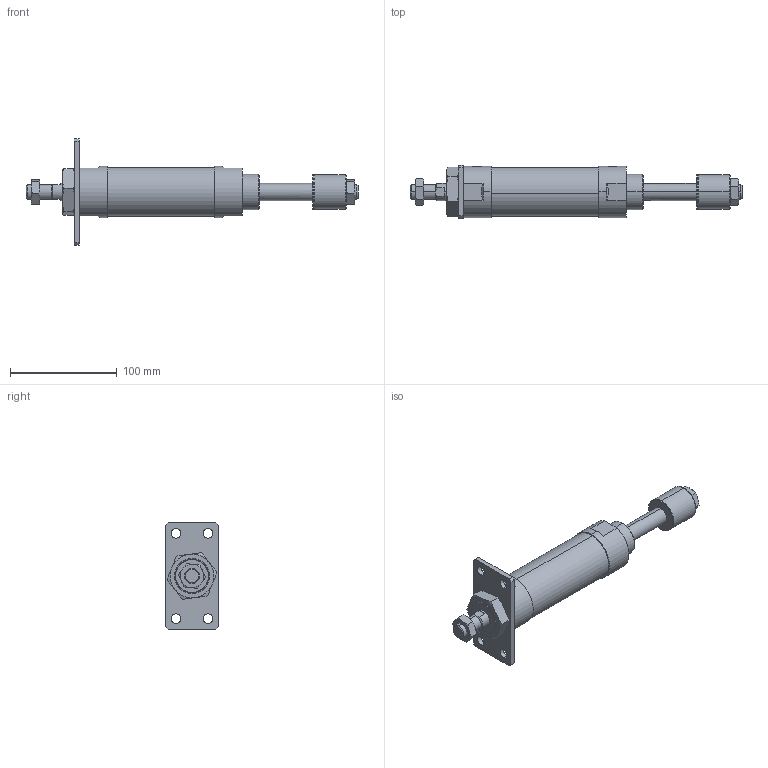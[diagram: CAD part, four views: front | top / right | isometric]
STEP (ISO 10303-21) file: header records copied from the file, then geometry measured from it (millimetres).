
FILE_DESCRIPTION (( 'STEP AP203' ), '1' );
FILE_NAME ('JGA7-40-50-A.STEP', '2016-04-20T01:58:37', ( '' ), ( '' ), 'SwSTEP 2.0', 'SolidWorks 2014', '' );
FILE_SCHEMA (( 'CONFIG_CONTROL_DESIGN' ));
Length unit declared in the file: millimetre
Products named in the file (8): JGLH2-40B; JGA7-40-50-A; JGA7-40A-50; JGA7-40-Turn; M33x2-11mm; 40-50; M14x1.5-8mm; J#2-40-A
Assembly tree (8 placements, depth 2):
  JGA7-40-50-A
    JGLH2-40B
    40-50
    JGA7-40A-50
    M14x1.5-8mm  x2
    M33x2-11mm
    J#2-40-A
    JGA7-40-Turn
Bounding box: 311.5 x 50 x 100 mm (x, y, z)
Volume: 356896.3 mm3; surface area: 66284.5 mm2
Topology: 8 solids, 8 shells, 169 faces, 378 edges, 230 vertices
Faces by surface type: plane 61, cylinder 48, torus 38, cone 22
Entity records: 5460 total; most frequent: CARTESIAN_POINT 1312, DIRECTION 716, ORIENTED_EDGE 652, EDGE_CURVE 326, AXIS2_PLACEMENT_3D 298, VERTEX_POINT 202, EDGE_LOOP 172, ADVANCED_FACE 147
